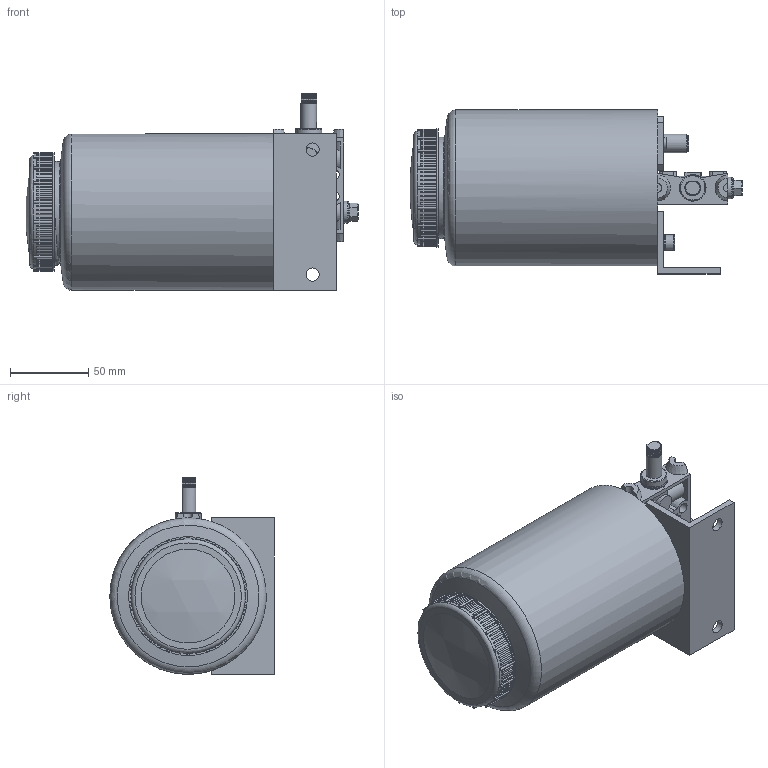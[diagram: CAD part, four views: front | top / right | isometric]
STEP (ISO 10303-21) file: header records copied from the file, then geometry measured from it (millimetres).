
FILE_DESCRIPTION((''),'2;1');
FILE_NAME('T:\Inventor\Projekte\Vogel_Bibliothek\Vogel_Numerisch_9_stellig\501-301-056.stp','2008-09-10T11:12:10',('Heretek'),(''),'Autodesk Inventor 11','Autodesk Inventor 11','');
FILE_SCHEMA(('AUTOMOTIVE_DESIGN { 1 0 10303 214 1 1 1 1 }'));
Length unit declared in the file: millimetre
Products named in the file (2): 501-301-056; 501-301-056_1
Assembly tree (1 placements, depth 2):
  501-301-056
    501-301-056_1
Bounding box: 212.37 x 105 x 125.69 mm (x, y, z)
Surface area: 101030.8 mm2
Topology: 5 solids, 6 shells, 786 faces, 2086 edges, 1348 vertices
Faces by surface type: plane 462, cylinder 248, cone 53, torus 12, bspline 9, sphere 2
Full cylindrical faces by diameter (mm): 1 x3, 2 x1, 2.459 x2, 4 x3, 4.5 x2, 5 x1, 6 x2, 6.5 x2, 6.92 x1, 7 x8, 8 x2, 8.3 x1, 8.5 x2, 8.9 x1, 10 x4, 11 x2, 11.547 x1, 12 x1, 13.9 x1, 14 x1, 14.8 x2, 15 x1, 16 x1, 16.1 x1, 16.4 x1, 16.6 x1, 17 x2, 18 x1, 22 x1, 64.8 x1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
Entity records: 26283 total; most frequent: CARTESIAN_POINT 6867, DIRECTION 4165, ORIENTED_EDGE 3928, EDGE_CURVE 1965, AXIS2_PLACEMENT_3D 1602, VERTEX_POINT 1320, VECTOR 961, LINE 961
